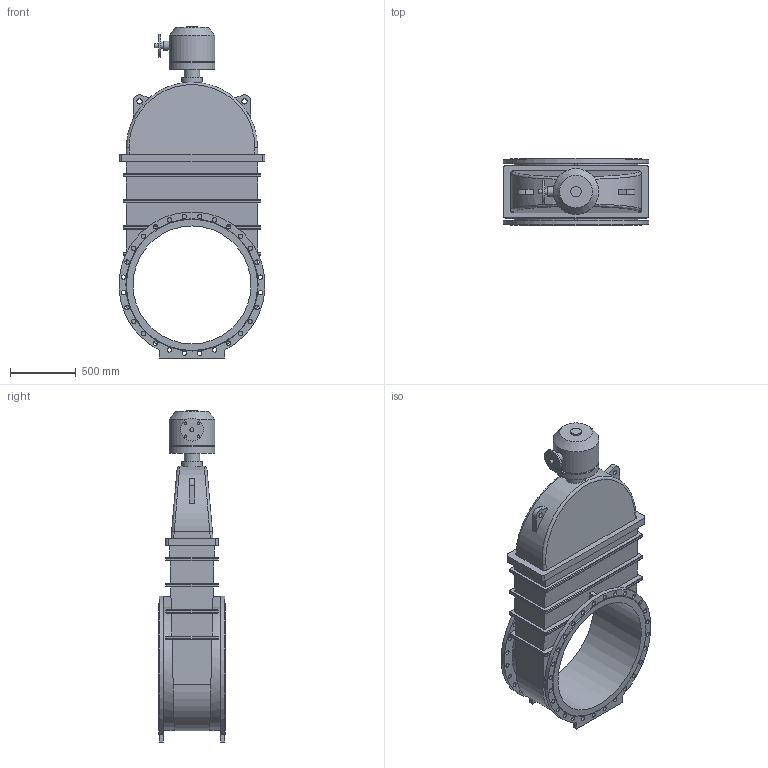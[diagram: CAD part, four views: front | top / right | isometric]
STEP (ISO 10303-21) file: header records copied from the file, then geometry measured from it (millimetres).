
FILE_DESCRIPTION(('STEP AP203'), '1');
FILE_NAME('Çàäâèæêà 47GV.Z DN900 PN10 + ðåäóêòîð ñ âõîäíûì ôëàíöåì', '', ('UNSPECIFIED'), ('UNSPECIFIED'), 'ASCON STEP Converter 1.6', 'ASCON Math Kernel', '');
FILE_SCHEMA(('CONFIG_CONTROL_DESIGN'));
Length unit declared in the file: millimetre
Bounding box: 1112.29 x 510 x 2532.5 mm (x, y, z)
Volume: 447475540.8 mm3; surface area: 8792354.8 mm2
Topology: 1 solids, 1 shells, 289 faces, 724 edges, 459 vertices
Faces by surface type: cylinder 146, plane 106, bspline 34, cone 3
Full cylindrical faces by diameter (mm): 18 x4, 34 x56, 40 x2, 50 x1, 70 x1, 80 x1, 120 x1, 160 x1, 175 x1, 330 x1, 350 x2, 900 x1
Entity records: 14602 total; most frequent: CARTESIAN_POINT 5613, ORIENTED_EDGE 1298, DIRECTION 1286, EDGE_CURVE 649, EDGE_LOOP 512, AXIS2_PLACEMENT_3D 495, VERTEX_POINT 459, FACE_BOUND 362
